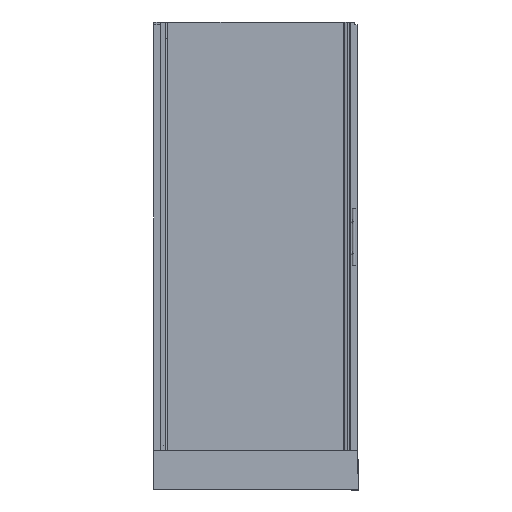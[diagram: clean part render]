
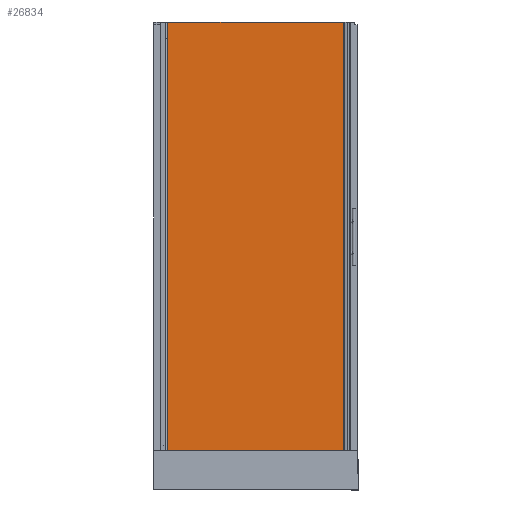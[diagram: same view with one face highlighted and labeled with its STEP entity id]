
A CAD part, left-side view. The second image highlights one B-rep face of the part: STEP entity #26834.
In plain terms, the highlighted planar face has unit normal (-1, 0, 0).
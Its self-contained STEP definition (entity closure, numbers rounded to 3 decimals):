
#26714=CARTESIAN_POINT('',(-865.853,-55.82,164.56));
#26715=VERTEX_POINT('',#26714);
#26722=CARTESIAN_POINT('',(-865.853,-55.82,2061.56));
#26723=VERTEX_POINT('',#26722);
#26724=CARTESIAN_POINT('',(-865.853,-55.82,2061.56));
#26725=DIRECTION('',(0.0,0.0,-1.0));
#26726=VECTOR('',#26725,1897.0);
#26727=LINE('',#26724,#26726);
#26728=EDGE_CURVE('',#26723,#26715,#26727,.T.);
#26753=CARTESIAN_POINT('',(-865.853,-848.82,164.56));
#26754=VERTEX_POINT('',#26753);
#26761=CARTESIAN_POINT('',(-865.853,-55.82,164.56));
#26762=DIRECTION('',(0.0,-1.0,0.0));
#26763=VECTOR('',#26762,793.);
#26764=LINE('',#26761,#26763);
#26765=EDGE_CURVE('',#26715,#26754,#26764,.T.);
#26800=CARTESIAN_POINT('',(-865.853,-848.82,2061.56));
#26801=VERTEX_POINT('',#26800);
#26802=CARTESIAN_POINT('',(-865.853,-55.82,2061.56));
#26803=DIRECTION('',(0.0,-1.0,0.0));
#26804=VECTOR('',#26803,793.);
#26805=LINE('',#26802,#26804);
#26806=EDGE_CURVE('',#26723,#26801,#26805,.T.);
#26818=CARTESIAN_POINT('',(-865.853,-26.17,69.71));
#26819=DIRECTION('',(-1.0,0.0,0.0));
#26820=DIRECTION('',(0.0,-1.0,0.0));
#26821=AXIS2_PLACEMENT_3D('',#26818,#26819,#26820);
#26822=PLANE('',#26821);
#26823=ORIENTED_EDGE('',*,*,#26728,.T.);
#26824=ORIENTED_EDGE('',*,*,#26765,.T.);
#26825=CARTESIAN_POINT('',(-865.853,-848.82,164.56));
#26826=DIRECTION('',(0.0,0.0,1.0));
#26827=VECTOR('',#26826,1897.0);
#26828=LINE('',#26825,#26827);
#26829=EDGE_CURVE('',#26754,#26801,#26828,.T.);
#26830=ORIENTED_EDGE('',*,*,#26829,.T.);
#26831=ORIENTED_EDGE('',*,*,#26806,.F.);
#26832=EDGE_LOOP('',(#26823,#26824,#26830,#26831));
#26833=FACE_OUTER_BOUND('',#26832,.T.);
#26834=ADVANCED_FACE('',(#26833),#26822,.T.);
